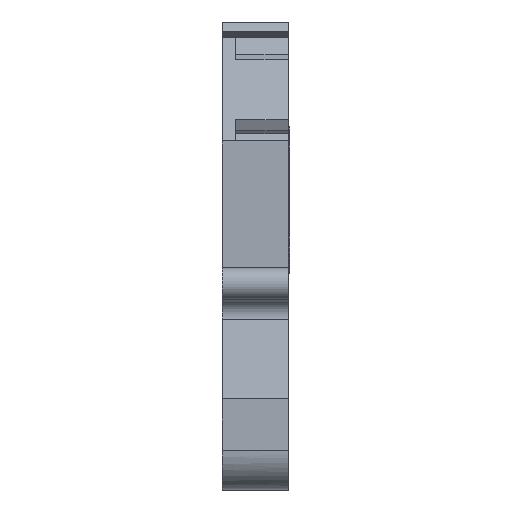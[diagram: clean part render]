
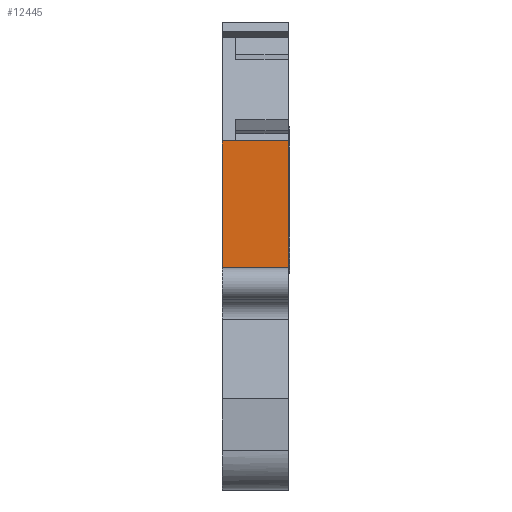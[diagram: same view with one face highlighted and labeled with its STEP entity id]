
A CAD part, left-side view. The second image highlights one B-rep face of the part: STEP entity #12445.
In plain terms, the highlighted planar face has unit normal (-1, 0, 0).
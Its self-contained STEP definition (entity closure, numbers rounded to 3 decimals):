
#156 = DIRECTION ( 'NONE',  ( -1., 0., 0. ) ) ;
#519 = VECTOR ( 'NONE', #9118, 1000. ) ;
#1399 = LINE ( 'NONE', #17164, #2555 ) ;
#1572 = LINE ( 'NONE', #9586, #7942 ) ;
#1679 = LINE ( 'NONE', #5109, #519 ) ;
#1974 = DIRECTION ( 'NONE',  ( 0., -1., 0. ) ) ;
#1976 = CARTESIAN_POINT ( 'NONE',  ( -42.35, -11.9, 16.8 ) ) ;
#2453 = DIRECTION ( 'NONE',  ( 0., 0., 1. ) ) ;
#2555 = VECTOR ( 'NONE', #13995, 1000. ) ;
#3156 = ORIENTED_EDGE ( 'NONE', *, *, #12408, .F. ) ;
#3621 = EDGE_CURVE ( 'NONE', #4935, #8231, #10268, .T. ) ;
#4410 = CARTESIAN_POINT ( 'NONE',  ( -42.35, -6.9, 16.8 ) ) ;
#4935 = VERTEX_POINT ( 'NONE', #4410 ) ;
#5109 = CARTESIAN_POINT ( 'NONE',  ( -42.35, -11.9, 26.4 ) ) ;
#5490 = VERTEX_POINT ( 'NONE', #12781 ) ;
#6162 = PLANE ( 'NONE',  #10684 ) ;
#7074 = ORIENTED_EDGE ( 'NONE', *, *, #16752, .T. ) ;
#7157 = VECTOR ( 'NONE', #1974, 1000. ) ;
#7942 = VECTOR ( 'NONE', #8455, 1000. ) ;
#8231 = VERTEX_POINT ( 'NONE', #1976 ) ;
#8455 = DIRECTION ( 'NONE',  ( 0., 0., 1. ) ) ;
#8653 = VERTEX_POINT ( 'NONE', #17213 ) ;
#9118 = DIRECTION ( 'NONE',  ( 0., 1., 0. ) ) ;
#9586 = CARTESIAN_POINT ( 'NONE',  ( -42.35, -6.9, 0. ) ) ;
#10268 = LINE ( 'NONE', #17459, #7157 ) ;
#10427 = EDGE_CURVE ( 'NONE', #8653, #5490, #1679, .T. ) ;
#10535 = ORIENTED_EDGE ( 'NONE', *, *, #3621, .T. ) ;
#10684 = AXIS2_PLACEMENT_3D ( 'NONE', #15623, #156, #2453 ) ;
#12408 = EDGE_CURVE ( 'NONE', #4935, #5490, #1572, .T. ) ;
#12445 = ADVANCED_FACE ( 'NONE', ( #16491 ), #6162, .T. ) ;
#12476 = EDGE_LOOP ( 'NONE', ( #16559, #3156, #10535, #7074 ) ) ;
#12781 = CARTESIAN_POINT ( 'NONE',  ( -42.35, -6.9, 26.4 ) ) ;
#13995 = DIRECTION ( 'NONE',  ( 0., 0., 1. ) ) ;
#15623 = CARTESIAN_POINT ( 'NONE',  ( -42.35, -11.9, 26.4 ) ) ;
#16491 = FACE_OUTER_BOUND ( 'NONE', #12476, .T. ) ;
#16559 = ORIENTED_EDGE ( 'NONE', *, *, #10427, .T. ) ;
#16752 = EDGE_CURVE ( 'NONE', #8231, #8653, #1399, .T. ) ;
#17164 = CARTESIAN_POINT ( 'NONE',  ( -42.35, -11.9, 26.4 ) ) ;
#17213 = CARTESIAN_POINT ( 'NONE',  ( -42.35, -11.9, 26.4 ) ) ;
#17459 = CARTESIAN_POINT ( 'NONE',  ( -42.35, -11.9, 16.8 ) ) ;
